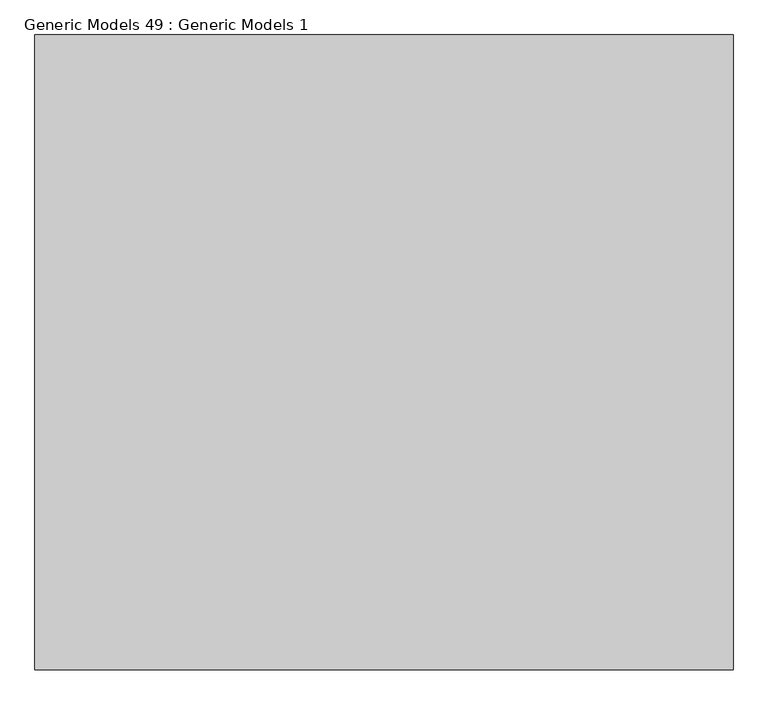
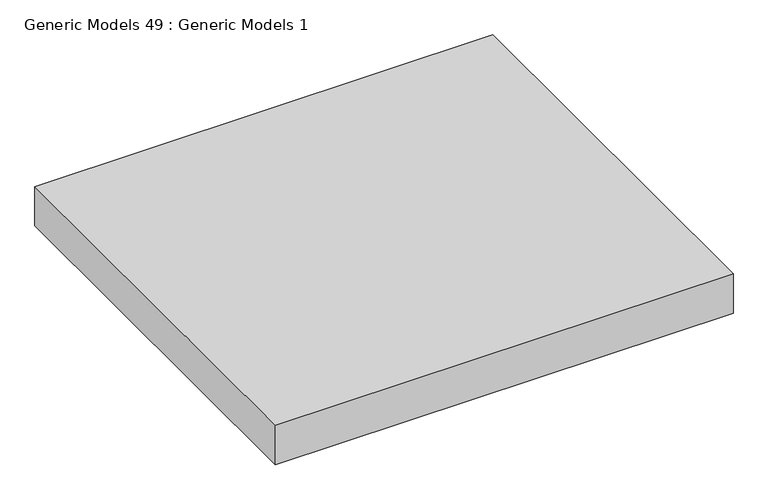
"""IFC4 building model written with IfcOpenShell, lengths in millimetres: proxy geometry, Generic Models 49 : Generic Models 1."""

from ifc_helpers import new_model, si_unit, origin, origin_with_axes, place, context, project, spatial, polyline, outline, extrude, source, transform, mapped, element, save


def generic_models_49_generic_models_1_e7727c0e(model_context):
    return source(origin(), model_context, "Body", "SweptSolid", [
        extrude(outline(polyline([(-1704.8268345, -3424.1855869), (-1704.8268345, -2424.1855869), (-604.8268345, -2424.1855869), (-604.8268345, -3424.1855869), (-1704.8268345, -3424.1855869)])), origin_with_axes(), (0.0, 0.0, 1.0), 100.0),
    ])


if __name__ == "__main__":
    model = new_model("IFC4")
    model_context = context("Model", 3, world=origin())
    ifc_project = project(units=[si_unit("LENGTHUNIT", "METRE", prefix="MILLI")], contexts=[model_context])
    site = spatial("IfcSite", under=ifc_project)
    building = spatial("IfcBuilding", under=site)
    placement = place(None, origin())
    generic_models_49_generic_models_1_shape = generic_models_49_generic_models_1_e7727c0e(model_context)
    element("IfcBuildingElementProxy", 1, Name="Generic Models 49 : Generic Models 1", ObjectType="Generic Models 49 : Generic Models 1", at=placement, inside=building, context=model_context, shape_type="MappedRepresentation", body=[
        mapped(generic_models_49_generic_models_1_shape, transform((0.0, 0.0, 0.0), x_axis=(1.0, 0.0, 0.0), y_axis=(0.0, 1.0, 0.0), z_axis=(0.0, 0.0, 1.0))),
    ])
    save(model, "model.ifc")
